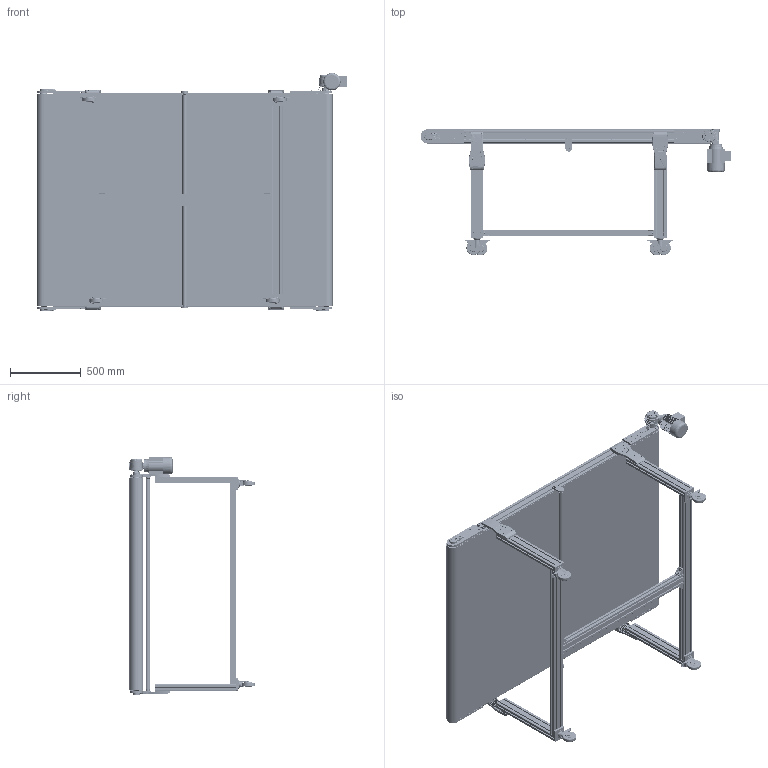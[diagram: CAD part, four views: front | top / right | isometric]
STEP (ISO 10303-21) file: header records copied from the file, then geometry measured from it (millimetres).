
FILE_DESCRIPTION (( 'STEP AP203' ), '1' );
FILE_NAME ('NASTRO_RETTILINEO_TAPPETO.step', '2026-05-05T06:21:19', ( 'Utente Windows' ), ( '' ), 'SwSTEP 2.0', 'SolidWorks 2024', '' );
FILE_SCHEMA (( 'CONFIG_CONTROL_DESIGN' ));
Length unit declared in the file: millimetre
Products named in the file (62): 084.802.014; LAMIERA_STANDARD; BLOCCO_BRACCIO_CH04P_V2_VF44P V2; TAPPETO_STANDARD_CINGHIE; 084.301.000 VITI ALUSIC1_084.301.003; 084.808.003_084.808.003; PERNO_95_TRAINO_CINGHIE_44_DX_Default<A macchina>; 084.808.002_084.808.002; 084.302.000 DADI ALUSIC 13x13-1_084.302.009; GAMBE_D95_Default<A macchina>; 2010.000.073; 084.303.001; TELAIO_95_CINGHIE_Default<A macchina>; 084.302.000 DADI ALUSIC 13x13-1_084.302.007; 084.802.060_Default<A macchina>; 084.802.067_Default<A macchina>; CH04P_DX; BLOCCO_TRAINO_95_STANDARD_44_DX_dx; BLOCCO_REGGITAPPETO; VITI TCEI UNI 5931_M6x12 UNI 5931; GUIDA_CINGHIA_Z_95; VITE_RONDELLA_M8X20; 084.305.003-1; 084.802.062; RULLO_95_CINGHIE_Default<A macchina>; 084.302.000 DADI ALUSIC 13x13-1_084.302.004; FLANGIA_GAMBA_95_CON GIUNTI; VITE_DADO_M5X12; BLOCCO_RINVIO_95_STANDARD_CON TENDINASTRO E CARTER; 084.803.018; 084.802.071; 084.802.034_084.802.034; DADO ESAGONALE M30 AUTOBLOCCANTE UNI 7473_M30 UNI 7473; PERNO_95_RINVIO_CINGHIE; 2010.000.072_L_Default<A macchina>; NASTRO_RETTILINEO_TAPPETO; RUOTA_95; 084.802.028; VITI TSEI UNI 5933_M5x12 UNI 5933; 084.808.012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
Assembly tree (194 placements, depth 4):
  NASTRO_RETTILINEO_TAPPETO
    TAPPETO_STANDARD_CINGHIE
    TELAIO_95_CINGHIE_Default<A macchina>
    LAMIERA_STANDARD
    RULLO_95_CINGHIE_Default<A macchina>  x2
    PERNO_95_TRAINO_CINGHIE_44_DX_Default<A macchina>
    BLOCCO_TRAINO_95_STANDARD_44_DX_dx
      084.808.003_084.808.003
      084.302.060  x2
      084.802.034_084.802.034
      084.301.000 VITI ALUSIC_084.301.003  x6
      VITI TCEI UNI 5931_M4x25 UNI 5931  x2
      084.802.067_Default<A macchina>
      BLOCCO_BRACCIO_CH04P_V2_VF44P V2
        084.808.012
        084.802.062
        084.803.018
        VITI TCEI UNI 5931_M6x12 UNI 5931  x4
        VITI TE UNI 5739_M6x16 UNI 5739  x4
        084.802.060_Default<A macchina>
    BLOCCO_TRAINO_95_STANDARD_CON TENDINASTRO E CARTER
      084.808.002_084.808.002
      084.302.060  x2
      084.802.019_084.802.019
      084.301.000 VITI ALUSIC_084.301.003  x6
      VITI TCEI UNI 5931_M4x25 UNI 5931  x2
      084.802.071
      084.802.068
      VITI TSEI UNI 5933_M4x12 UNI 5933  x2
    GUIDA_CINGHIA_Z_95  x4
      449.014.106
      DADO ESAGONALE M30 AUTOBLOCCANTE UNI 7473_M30 UNI 7473
    PERNO_95_RINVIO_CINGHIE
    BLOCCO_RINVIO_95_STANDARD_CON TENDINASTRO E CARTER  x2
      084.808.002_084.808.002
      084.803.003
      084.302.060
      084.802.019_084.802.019
      VITI TSEI UNI 5933_M4x12 UNI 5933
      084.302.000 DADI ALUSIC 13x13-1_084.302.004
      084.301.000 VITI ALUSIC_084.301.003
      084.802.071
    GAMBE_D95_Default<A macchina>  x2
    FLANGIA_GAMBA_95_CON GIUNTI
      2010.000.072
        2010.000.072_L_Default<A macchina>
        2010.000.073
        2010.000.074
      084.302.000 DADI ALUSIC 13x13-1_084.302.004  x6
      RONDELLE UNI 6592_8.4x17 UNI 6592  x7
      084.301.000 VITI ALUSIC1_084.301.003  x7
    FLANGIA_GAMBA_95_CON GIUNTI  x3
      2010.000.072
        2010.000.072_L_Default<A macchina>
        2010.000.073
        2010.000.074
      084.302.000 DADI ALUSIC 13x13-1_084.302.004
      RONDELLE UNI 6592_8.4x17 UNI 6592
      084.301.000 VITI ALUSIC1_084.301.003
    RUOTA_95  x4
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Bounding box: 2204.1 x 896.5 x 1686.5 mm (x, y, z)
Volume: 54394418.5 mm3; surface area: 38022334.8 mm2
Topology: 382 solids, 394 shells, 17120 faces, 44451 edges, 28457 vertices
Faces by surface type: plane 8013, cylinder 4407, bspline 1862, cone 1617, torus 1085, sphere 136
Entity records: 255919 total; most frequent: CARTESIAN_POINT 87080, ORIENTED_EDGE 34692, DIRECTION 31291, EDGE_CURVE 17346, VERTEX_POINT 11142, AXIS2_PLACEMENT_3D 10718, VECTOR 9855, LINE 9855
